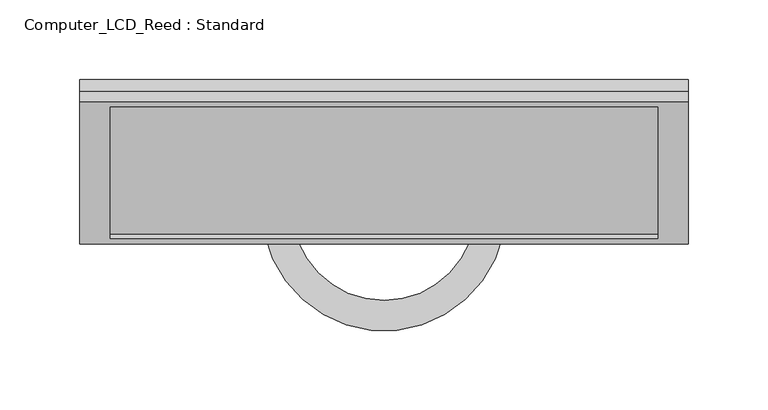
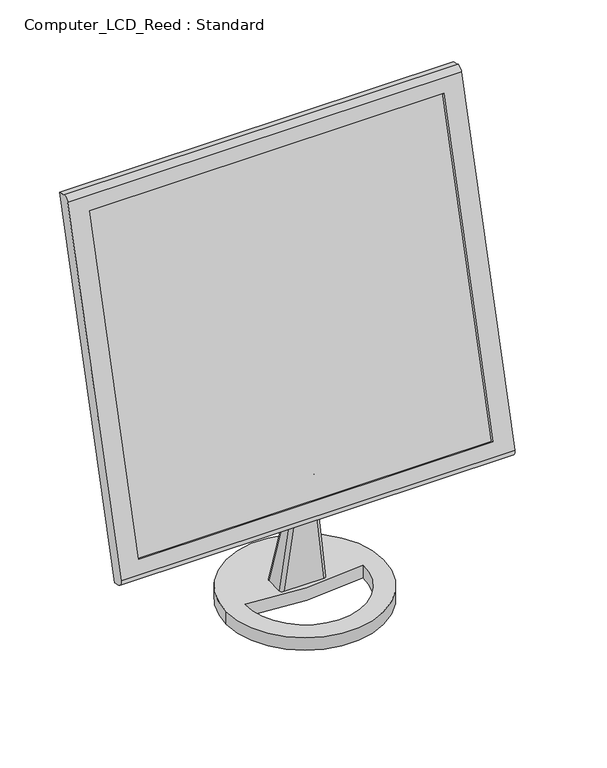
"""IFC4 building model written with IfcOpenShell, lengths in millimetres: proxy geometry, Computer_LCD_Reed : Standard."""

from ifc_helpers import new_model, si_unit, point, frame, frame_2d, origin, origin_with_axes, place, context, project, spatial, circle_curve, trimmed, segment, composite_curve, outline, extrude, source, transform, mapped, element, save
from ifc_brep_helpers import plane_surface, cylinder_surface, extruded_surface, advanced_brep


def computer_lcd_reed_standard_d5f8aea6(model_context):
    return source(origin(), model_context, "Body", "SolidModel", [
        advanced_brep(
        [(178.8970679, -108.9020529, 88.9769592), (178.8970679, -16.8660005, 432.4601831), (178.8970679, -23.8630331, 434.3350323), (178.8970679, -30.5454111, 430.4769596), (178.8970679, -119.7571583, 97.5341865), (178.8970679, -115.8990855, 90.8518085), (-202.1029321, -108.9020529, 88.9769592), (-202.1029321, -115.8990855, 90.8518085), (-202.1029321, -119.7571583, 97.5341865), (-202.1029321, -30.5454111, 430.4769596), (-202.1029321, -23.8630331, 434.3350323), (-202.1029321, -16.8660005, 432.4601831), (159.8470679, -34.0637613, 417.346298), (159.8470679, -116.2388081, 110.6648481), (-183.0529321, -116.2388081, 110.6648481), (-183.0529321, -34.0637613, 417.346298), (-183.0529321, -113.6507624, 109.9713834), (-183.0529321, -31.4757156, 416.6528332), (159.8470679, -31.4757156, 416.6528332), (159.8470679, -113.6507624, 109.9713834)],
        [
            (0, 1),
            (1, 2),
            (2, 3, circle_curve(frame((178.8970679, -25.2751857, 429.0648069), z_axis=(1.0, 0.0, 0.0), x_axis=(0.0, 1.0, 0.0)), 5.4561388)),
            (3, 4),
            (4, 5, circle_curve(frame((178.8970679, -114.4869329, 96.1220339), z_axis=(1.0, 0.0, 0.0), x_axis=(0.0, 1.0, 0.0)), 5.4561388)),
            (5, 0),
            (6, 7),
            (7, 8, circle_curve(frame((-202.1029321, -114.4869329, 96.1220339), z_axis=(-1.0, 0.0, 0.0), x_axis=(0.0, 1.0, 0.0)), 5.4561388)),
            (8, 9),
            (9, 10, circle_curve(frame((-202.1029321, -25.2751857, 429.0648069), z_axis=(-1.0, 0.0, 0.0), x_axis=(0.0, 1.0, 0.0)), 5.4561388)),
            (10, 11),
            (11, 6),
            (0, 6),
            (11, 1),
            (10, 2),
            (9, 3),
            (8, 4),
            (12, 13),
            (13, 14),
            (14, 15),
            (15, 12),
            (7, 5),
            (16, 17),
            (17, 15),
            (14, 16),
            (18, 19),
            (19, 13),
            (12, 18),
            (16, 19),
            (18, 17),
        ],
        [
            plane_surface(frame((178.8970679, 30.5449399, 609.4002215), z_axis=(1.0, 0.0, 0.0), x_axis=(0.0, 0.2588190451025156, 0.9659258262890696))),
            plane_surface(frame((-202.1029321, 30.5449399, 609.4002215), z_axis=(-1.0, 0.0, 0.0), x_axis=(0.0, -0.2588190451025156, -0.9659258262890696))),
            plane_surface(frame((178.8970679, -108.9020529, 88.9769592), z_axis=(0.0, 0.9659258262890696, -0.2588190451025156), x_axis=(-1.0, 0.0, 0.0))),
            plane_surface(frame((178.8970679, -16.8660005, 432.4601831), z_axis=(0.0, 0.25881904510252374, 0.9659258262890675), x_axis=(-1.0, 0.0, 0.0))),
            cylinder_surface(frame((-202.1029321, -25.2751857, 429.0648069), z_axis=(1.0, 0.0, 0.0), x_axis=(0.0, 1.0, 0.0)), 5.4561388),
            plane_surface(frame((178.8970679, -30.5454111, 430.4769596), z_axis=(0.0, -0.9659258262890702, 0.2588190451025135), x_axis=(-1.0, 0.0, 0.0))),
            cylinder_surface(frame((-202.1029321, -114.4869329, 96.1220339), z_axis=(1.0, 0.0, 0.0), x_axis=(0.0, 1.0, 0.0)), 5.4561388),
            plane_surface(frame((178.8970679, -115.8990855, 90.8518085), z_axis=(0.0, -0.2588190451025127, -0.9659258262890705), x_axis=(-1.0, 0.0, 0.0))),
            plane_surface(frame((-183.0529321, -31.4757156, 416.6528332), z_axis=(1.0000000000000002, 0.0, 0.0), x_axis=(0.0, -0.25881904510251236, -0.9659258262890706))),
            plane_surface(frame((159.8470679, -31.4757156, 416.6528332), z_axis=(-1.0000000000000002, 0.0, 0.0), x_axis=(0.0, 0.25881904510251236, 0.9659258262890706))),
            plane_surface(frame((-183.0529321, -31.4757156, 416.6528332), z_axis=(0.0, -0.9659258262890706, 0.25881904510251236), x_axis=(1.0, 0.0, 0.0))),
            plane_surface(frame((-183.0529321, -113.6507624, 109.9713834), z_axis=(0.0, 0.25881904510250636, 0.9659258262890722), x_axis=(1.0, 0.0, 0.0))),
            plane_surface(frame((-183.0529321, -37.6993477, 418.3204504), z_axis=(0.0, -0.2588190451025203, -0.9659258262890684), x_axis=(1.0, 0.0, 0.0))),
        ],
        [
            (0, [[1, 2, 3, 4, 5, 6]]),
            (1, [[7, 8, 9, 10, 11, 12]]),
            (2, [[-1, 13, -12, 14]]),
            (3, [[-2, -14, -11, 15]]),
            (4, [[-3, -15, -10, 16]]),
            (5, [[-4, -16, -9, 17], [18, 19, 20, 21]]),
            (6, [[-5, -17, -8, 22]]),
            (7, [[-6, -22, -7, -13]]),
            (8, [[23, 24, -20, 25]]),
            (9, [[26, 27, -18, 28]]),
            (10, [[-23, 29, -26, 30]]),
            (11, [[-29, -25, -19, -27]]),
            (12, [[-30, -28, -21, -24]]),
        ],
    ),
        advanced_brep(
        [(-6.1924095, -100.930142, 127.0), (-3.0174095, -97.755142, 127.0), (-3.0174095, -95.7388226, 127.0), (-6.1924095, -92.5638226, 127.0), (-17.0134548, -92.5638226, 127.0), (-20.1884548, -95.7388226, 127.0), (-20.1884548, -97.755142, 127.0), (-17.0134548, -100.930142, 127.0), (7.5931225, -96.4546136, 12.7), (-30.7989868, -96.4546136, 12.7), (-33.9739868, -93.2796136, 12.7), (-33.9739868, -76.3452788, 12.7), (-30.7989868, -73.1702788, 12.7), (7.5931225, -73.1702788, 12.7), (10.7681225, -76.3452788, 12.7), (10.7681225, -93.2796136, 12.7)],
        [
            (0, 1, circle_curve(frame((-6.1924095, -97.755142, 127.0), z_axis=(0.0, 0.0, 1.0), x_axis=(-1.0, 0.0, 0.0)), 3.175)),
            (1, 2),
            (2, 3, circle_curve(frame((-6.1924095, -95.7388226, 127.0), z_axis=(0.0, 0.0, 1.0), x_axis=(-1.0, 0.0, 0.0)), 3.175)),
            (3, 4),
            (4, 5, circle_curve(frame((-17.0134548, -95.7388226, 127.0), z_axis=(0.0, 0.0, 1.0), x_axis=(-1.0, 0.0, 0.0)), 3.175)),
            (5, 6),
            (6, 7, circle_curve(frame((-17.0134548, -97.755142, 127.0), z_axis=(0.0, 0.0, 1.0), x_axis=(-1.0, 0.0, 0.0)), 3.175)),
            (7, 0),
            (8, 9),
            (9, 10, circle_curve(frame((-30.7989868, -93.2796136, 12.7), z_axis=(0.0, 0.0, -1.0), x_axis=(-1.0, 0.0, 0.0)), 3.175)),
            (10, 11),
            (11, 12, circle_curve(frame((-30.7989868, -76.3452788, 12.7), z_axis=(0.0, 0.0, -1.0), x_axis=(-1.0, 0.0, 0.0)), 3.175)),
            (12, 13),
            (13, 14, circle_curve(frame((7.5931225, -76.3452788, 12.7), z_axis=(0.0, 0.0, -1.0), x_axis=(-1.0, 0.0, 0.0)), 3.175)),
            (14, 15),
            (15, 8, circle_curve(frame((7.5931225, -93.2796136, 12.7), z_axis=(0.0, 0.0, -1.0), x_axis=(-1.0, 0.0, 0.0)), 3.175)),
            (15, 1),
            (0, 8),
            (14, 2),
            (13, 3),
            (12, 4),
            (11, 5),
            (10, 6),
            (9, 7),
        ],
        [
            plane_surface(frame((-11.6029321, -96.7469823, 127.0), z_axis=(0.0, 0.0, 1.0), x_axis=(1.0, 0.0, 0.0))),
            plane_surface(frame((-11.6029321, -84.8124462, 12.7), z_axis=(0.0, 0.0, -1.0), x_axis=(1.0, 0.0, 0.0))),
            extruded_surface(trimmed(circle_curve(frame((7.5931225, -93.2796136, 12.7), z_axis=(0.0, 0.0, 1.0), x_axis=(-1.0, 0.0, 0.0)), 3.175), [point((7.5931225, -96.4546136, 12.7))], [point((10.7681225, -93.2796136, 12.7))], True, "CARTESIAN"), (-13.785532, -4.475528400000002, 114.3), 115.21528217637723),
            plane_surface(frame((10.7681225, -84.8124462, 12.7), z_axis=(0.99280521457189, 0.0, 0.11974057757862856), x_axis=(0.0, 1.0, 0.0))),
            extruded_surface(trimmed(circle_curve(frame((7.5931225, -76.3452788, 12.7), z_axis=(0.0, 0.0, 1.0), x_axis=(-1.0, 0.0, 0.0)), 3.175), [point((10.7681225, -76.3452788, 12.7))], [point((7.5931225, -73.1702788, 12.7))], True, "CARTESIAN"), (-13.785532, -19.393543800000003, 114.3), 116.75033376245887),
            plane_surface(frame((-11.6029321, -73.1702788, 12.7), z_axis=(0.0, 0.9859091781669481, 0.16728147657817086), x_axis=(-1.0, 0.0, 0.0))),
            extruded_surface(trimmed(circle_curve(frame((-30.7989868, -76.3452788, 12.7), z_axis=(0.0, 0.0, 1.0), x_axis=(-1.0, 0.0, 0.0)), 3.175), [point((-30.7989868, -73.1702788, 12.7))], [point((-33.9739868, -76.3452788, 12.7))], True, "CARTESIAN"), (13.785532, -19.393543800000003, 114.3), 116.75033376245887),
            plane_surface(frame((-33.9739868, -84.8124462, 12.7), z_axis=(-0.9928052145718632, 0.0, 0.11974057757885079), x_axis=(0.0, -1.0, 0.0))),
            extruded_surface(trimmed(circle_curve(frame((-30.7989868, -93.2796136, 12.7), z_axis=(0.0, 0.0, 1.0), x_axis=(-1.0, 0.0, 0.0)), 3.175), [point((-33.9739868, -93.2796136, 12.7))], [point((-30.7989868, -96.4546136, 12.7))], True, "CARTESIAN"), (13.785532, -4.475528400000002, 114.3), 115.21528217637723),
            plane_surface(frame((-11.6029321, -96.4546136, 12.7), z_axis=(0.0, -0.9992342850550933, -0.039125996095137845), x_axis=(1.0, 0.0, 0.0))),
        ],
        [
            (0, [[1, 2, 3, 4, 5, 6, 7, 8]]),
            (1, [[9, 10, 11, 12, 13, 14, 15, 16]]),
            (2, [[-16, 17, -1, 18]]),
            (3, [[-15, 19, -2, -17]]),
            (4, [[-14, 20, -3, -19]]),
            (5, [[-13, 21, -4, -20]]),
            (6, [[-12, 22, -5, -21]]),
            (7, [[-11, 23, -6, -22]]),
            (8, [[-10, 24, -7, -23]]),
            (9, [[-9, -18, -8, -24]]),
        ],
    ),
        extrude(outline(composite_curve([segment(trimmed(circle_curve(frame_2d((-11.6029321, -98.0421136)), 76.2), [point((-87.8029321, -98.0421136))], [point((64.5970679, -98.0421136))], False, "CARTESIAN"), True, "CONTINUOUS"), segment(trimmed(circle_curve(frame_2d((-11.6029321, -98.0421136)), 76.2), [point((64.5970679, -98.0421136))], [point((-87.8029321, -98.0421136))], False, "CARTESIAN"), True, "CONTINUOUS")], self_intersect=False), holes=[composite_curve([segment(trimmed(circle_curve(frame_2d((-11.6029321, -98.0421136)), 57.15), [point((-68.7308793, -96.4546136))], [point((45.525015, -96.4546136))], True, "CARTESIAN"), True, "CONTINUOUS"), segment(trimmed(circle_curve(frame_2d((-11.6029321, 217.3348256)), 318.9473538), [point((45.525015, -96.4546136))], [point((-68.7308793, -96.4546136))], False, "CARTESIAN"), True, "CONTINUOUS")], self_intersect=False)]), origin_with_axes(), (0.0, 0.0, 1.0), 12.7),
    ])


if __name__ == "__main__":
    model = new_model("IFC4")
    model_context = context("Model", 3, world=origin())
    ifc_project = project(units=[si_unit("LENGTHUNIT", "METRE", prefix="MILLI")], contexts=[model_context])
    site = spatial("IfcSite", under=ifc_project)
    building = spatial("IfcBuilding", under=site)
    placement = place(None, origin())
    computer_lcd_reed_standard_shape = computer_lcd_reed_standard_d5f8aea6(model_context)
    element("IfcBuildingElementProxy", 1, Name="Computer_LCD_Reed : Standard", ObjectType="Computer_LCD_Reed : Standard", at=placement, inside=building, context=model_context, shape_type="MappedRepresentation", body=[
        mapped(computer_lcd_reed_standard_shape, transform((0.0, 0.0, 0.0), x_axis=(1.0, 0.0, 0.0), y_axis=(0.0, 1.0, 0.0), z_axis=(0.0, 0.0, 1.0))),
    ])
    save(model, "model.ifc")
